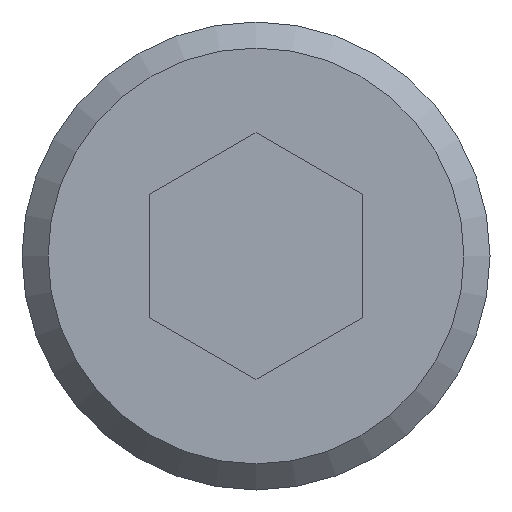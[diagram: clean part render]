
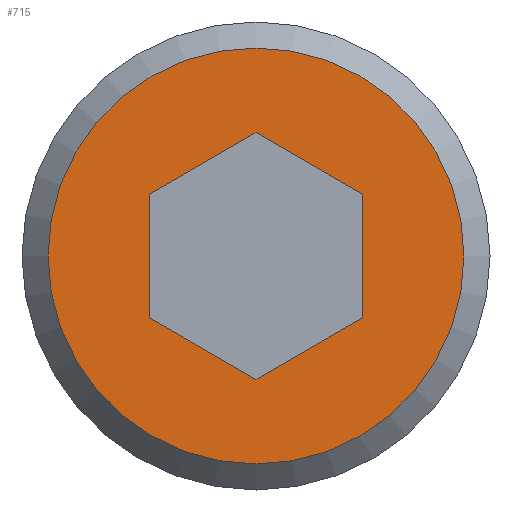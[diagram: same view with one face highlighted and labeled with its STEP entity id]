
A CAD part, front view. The second image highlights one B-rep face of the part: STEP entity #715.
In plain terms, the highlighted planar face has unit normal (0, -1, 0).
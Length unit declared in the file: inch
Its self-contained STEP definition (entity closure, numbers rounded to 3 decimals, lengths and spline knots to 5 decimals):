
#17=FACE_BOUND('',#145,.T.);
#64=CIRCLE('',#793,0.73);
#104=FACE_OUTER_BOUND('',#144,.T.);
#144=EDGE_LOOP('',(#631));
#145=EDGE_LOOP('',(#632,#633,#634,#635,#636,#637));
#196=LINE('',#1223,#246);
#200=LINE('',#1231,#250);
#203=LINE('',#1237,#253);
#206=LINE('',#1243,#256);
#209=LINE('',#1249,#259);
#212=LINE('',#1254,#262);
#246=VECTOR('',#882,0.3937);
#250=VECTOR('',#888,0.3937);
#253=VECTOR('',#893,0.3937);
#256=VECTOR('',#898,0.3937);
#259=VECTOR('',#903,0.3937);
#262=VECTOR('',#908,0.3937);
#314=VERTEX_POINT('',#1221);
#315=VERTEX_POINT('',#1222);
#318=VERTEX_POINT('',#1230);
#320=VERTEX_POINT('',#1236);
#322=VERTEX_POINT('',#1242);
#324=VERTEX_POINT('',#1248);
#338=VERTEX_POINT('',#1576);
#395=EDGE_CURVE('',#314,#315,#196,.T.);
#399=EDGE_CURVE('',#318,#314,#200,.T.);
#402=EDGE_CURVE('',#320,#318,#203,.T.);
#405=EDGE_CURVE('',#322,#320,#206,.T.);
#408=EDGE_CURVE('',#324,#322,#209,.T.);
#411=EDGE_CURVE('',#315,#324,#212,.T.);
#441=EDGE_CURVE('',#338,#338,#64,.T.);
#631=ORIENTED_EDGE('',*,*,#441,.F.);
#632=ORIENTED_EDGE('',*,*,#395,.T.);
#633=ORIENTED_EDGE('',*,*,#411,.T.);
#634=ORIENTED_EDGE('',*,*,#408,.T.);
#635=ORIENTED_EDGE('',*,*,#405,.T.);
#636=ORIENTED_EDGE('',*,*,#402,.T.);
#637=ORIENTED_EDGE('',*,*,#399,.T.);
#678=PLANE('',#792);
#715=ADVANCED_FACE('',(#104,#17),#678,.T.);
#792=AXIS2_PLACEMENT_3D('',#1575,#967,#968);
#793=AXIS2_PLACEMENT_3D('',#1577,#969,#970);
#882=DIRECTION('',(0.866,0.,-0.5));
#888=DIRECTION('',(0.866,0.,0.5));
#893=DIRECTION('',(0.,0.,1.));
#898=DIRECTION('',(-0.866,0.,0.5));
#903=DIRECTION('',(-0.866,0.,-0.5));
#908=DIRECTION('',(0.,0.,-1.));
#967=DIRECTION('center_axis',(0.,-1.,0.));
#968=DIRECTION('ref_axis',(0.,0.,-1.));
#969=DIRECTION('center_axis',(0.,1.,0.));
#970=DIRECTION('ref_axis',(0.,0.,1.));
#1221=CARTESIAN_POINT('',(0.,0.,0.43301));
#1222=CARTESIAN_POINT('',(0.375,0.,0.21651));
#1223=CARTESIAN_POINT('',(0.16108,0.,0.34001));
#1230=CARTESIAN_POINT('',(-0.375,0.,0.21651));
#1231=CARTESIAN_POINT('',(-0.34858,0.,0.23176));
#1236=CARTESIAN_POINT('',(-0.375,0.,-0.21651));
#1237=CARTESIAN_POINT('',(-0.375,0.,-0.26375));
#1242=CARTESIAN_POINT('',(0.,0.,-0.43301));
#1243=CARTESIAN_POINT('',(-0.02642,0.,-0.41776));
#1248=CARTESIAN_POINT('',(0.375,0.,-0.21651));
#1249=CARTESIAN_POINT('',(0.21392,0.,-0.30951));
#1254=CARTESIAN_POINT('',(0.375,0.,-0.04725));
#1575=CARTESIAN_POINT('Origin',(0.,0.,-0.311));
#1576=CARTESIAN_POINT('',(0.,0.,-0.73));
#1577=CARTESIAN_POINT('Origin',(0.,0.,0.));
